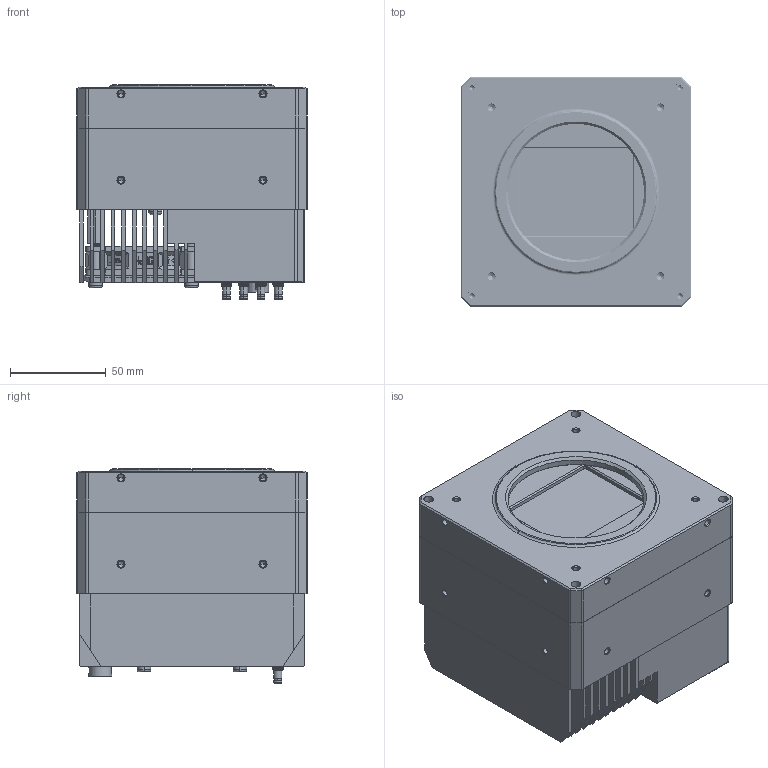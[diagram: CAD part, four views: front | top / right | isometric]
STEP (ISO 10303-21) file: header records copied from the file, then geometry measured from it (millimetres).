
FILE_DESCRIPTION((''),'2;1');
FILE_NAME('11_ASM','2025-06-04T14:38:24',('wangyijun6'),(''),'CREO PARAMETRIC BY PTC INC, 2020044','CREO PARAMETRIC BY PTC INC, 2020044','');
FILE_SCHEMA(('CONFIG_CONTROL_DESIGN'));
Products named in the file (1): 11_ASM
Bounding box: 120 x 120 x 111.62 mm (x, y, z)
Volume: 1056134.2 mm3; surface area: 280588.1 mm2
Topology: 2 solids, 57 shells, 3231 faces, 8992 edges, 5815 vertices
Faces by surface type: plane 1357, cylinder 1216, cone 362, bspline 159, torus 107, extrusion 24, revolution 6
Entity records: 194280 total; most frequent: CARTESIAN_POINT 112507, ORIENTED_EDGE 17644, DIRECTION 16500, EDGE_CURVE 8894, AXIS2_PLACEMENT_3D 6076, VERTEX_POINT 5815, VECTOR 4342, LINE 4318
